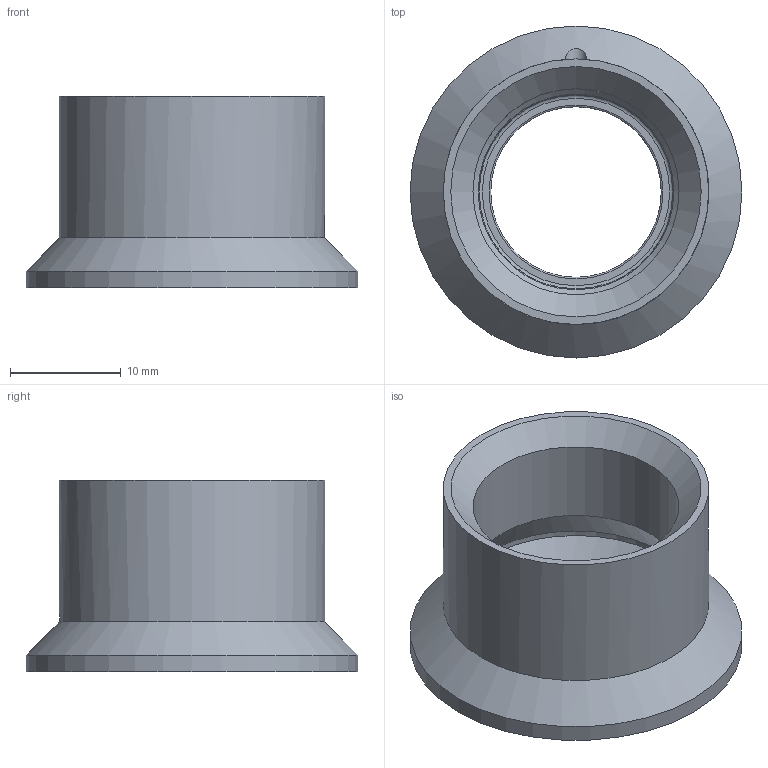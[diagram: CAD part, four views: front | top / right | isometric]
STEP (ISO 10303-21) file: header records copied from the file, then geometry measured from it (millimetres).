
FILE_DESCRIPTION(/* description */ ('Unknown'),/* implementation_level */ '2;1');
FILE_NAME(/* name */ 'Rheonics_HAW-12G-OTN',/* time_stamp */ '2023-06-05T12:02:33-05:00',/* author */ ('Unknown'),/* organization */ ('Unknown'),/* preprocessor_version */ 'ST-DEVELOPER v16.7',/* originating_system */ 'Solid Edge',/* authorisation */ 'Unknown');
FILE_SCHEMA (('AUTOMOTIVE_DESIGN {1 0 10303 214 3 1 1}'));
Length unit declared in the file: millimetre
Products named in the file (1): Rheonics_HAW-12G-OTN
Bounding box: 30 x 30 x 17.29 mm (x, y, z)
Volume: 3493.9 mm3; surface area: 3293.7 mm2
Topology: 1 solids, 1 shells, 18 faces, 45 edges, 28 vertices
Faces by surface type: cone 6, cylinder 5, torus 4, plane 3
Full cylindrical faces by diameter (mm): 2 x1, 18.631 x1, 24 x1, 30 x1
Entity records: 454 total; most frequent: CARTESIAN_POINT 94, DIRECTION 72, ORIENTED_EDGE 46, AXIS2_PLACEMENT_3D 36, EDGE_LOOP 35, FACE_BOUND 35, EDGE_CURVE 23, VERTEX_POINT 20
